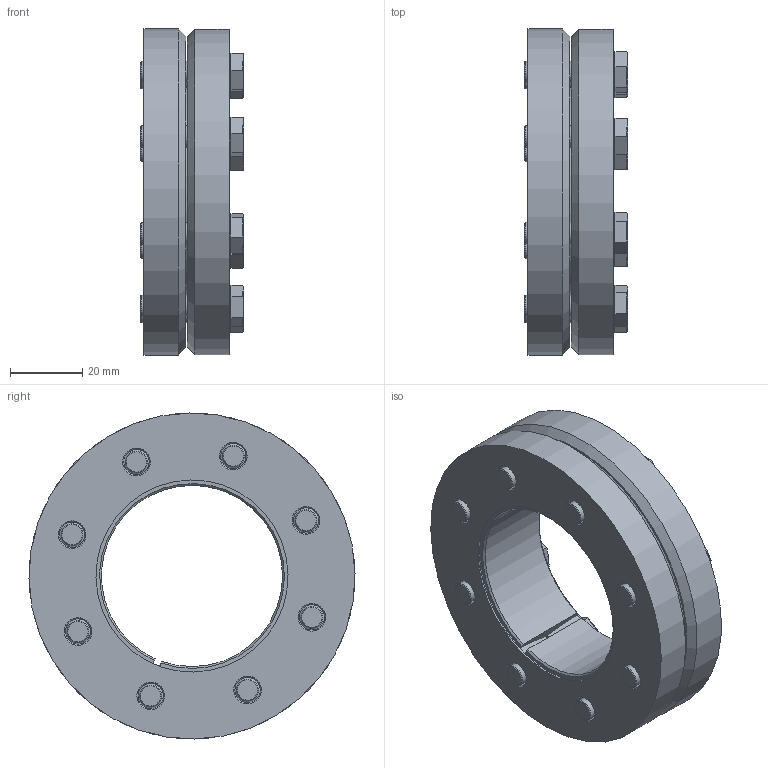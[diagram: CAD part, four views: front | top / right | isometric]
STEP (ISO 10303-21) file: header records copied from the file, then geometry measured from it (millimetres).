
FILE_DESCRIPTION(/* description */ (''),/* implementation_level */ '2;1');
FILE_NAME(/* name */ 'Z:\Amir\Disegni 3D\CALETTATORI\RCK 19\50x90 - 06190050\Assieme chiuso.stp',/* time_stamp */ '2015-03-18T15:59:59+01:00',/* author */ ('Amir.Elmekauy'),/* organization */ (''),/* preprocessor_version */ 'ST-DEVELOPER v15.6',/* originating_system */ 'Autodesk Inventor 2015',/* authorisation */ '');
FILE_SCHEMA (('AUTOMOTIVE_DESIGN { 1 0 10303 214 3 1 1 }'));
Length unit declared in the file: millimetre
Products named in the file (5): Anello interno; Tronco 1; Tronco 2; Vite di bloccaggio M6x25; Assieme chiuso
Bounding box: 28.5 x 89.99 x 89.99 mm (x, y, z)
Volume: 102427.4 mm3; surface area: 42537.2 mm2
Topology: 11 solids, 11 shells, 310 faces, 716 edges, 396 vertices
Faces by surface type: bspline 96, plane 88, cylinder 70, cone 48, torus 8
Full cylindrical faces by diameter (mm): 6 x8, 7 x16, 8.88 x8, 53 x2, 90 x2
Entity records: 3181 total; most frequent: CARTESIAN_POINT 992, DIRECTION 454, ORIENTED_EDGE 320, AXIS2_PLACEMENT_3D 210, EDGE_LOOP 198, EDGE_CURVE 160, VERTEX_POINT 130, CIRCLE 106
